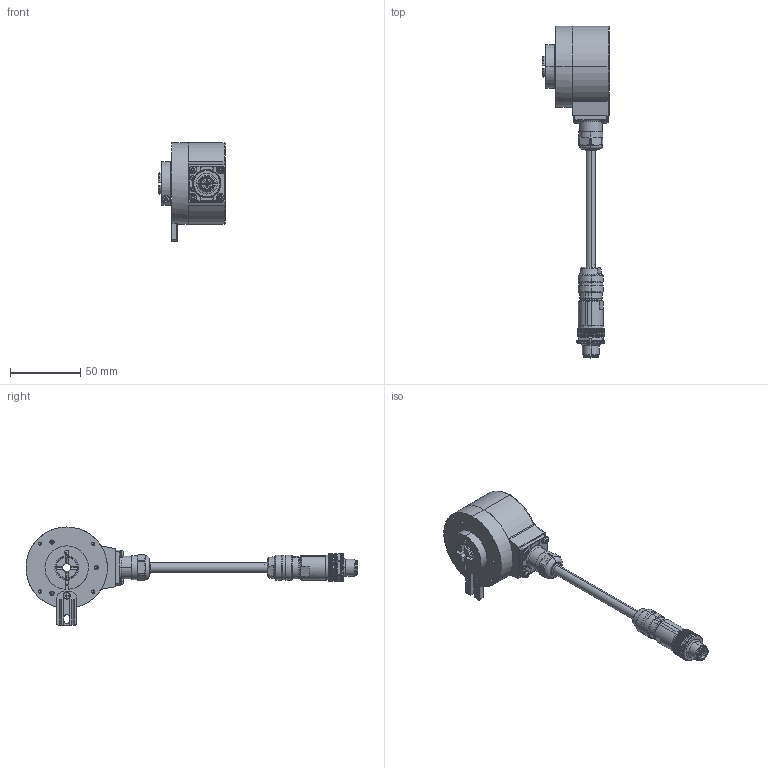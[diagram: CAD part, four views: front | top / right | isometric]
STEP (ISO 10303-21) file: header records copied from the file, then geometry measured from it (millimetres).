
FILE_DESCRIPTION (( 'STEP AP203' ), '1' );
FILE_NAME ('K58I.OXX.XXXXX.XH21506.6XR13.XXXX.step', '2025-12-08T13:47:15', ( '' ), ( '' ), 'SwSTEP 2.0', 'SolidWorks 2021', '' );
FILE_SCHEMA (( 'CONFIG_CONTROL_DESIGN' ));
Length unit declared in the file: millimetre
Products named in the file (1): K58I.OXX.XXXXX.XH21506.6XR13.XXXX
Bounding box: 48 x 236.49 x 69.9 mm (x, y, z)
Volume: 133031.5 mm3; surface area: 47586.1 mm2
Topology: 23 solids, 23 shells, 1672 faces, 4133 edges, 2535 vertices
Faces by surface type: plane 624, cylinder 597, cone 333, bspline 60, torus 42, sphere 16
Entity records: 52703 total; most frequent: CARTESIAN_POINT 13995, ORIENTED_EDGE 8214, DIRECTION 8010, EDGE_CURVE 4107, AXIS2_PLACEMENT_3D 3162, VERTEX_POINT 2533, EDGE_LOOP 1756, VECTOR 1686
